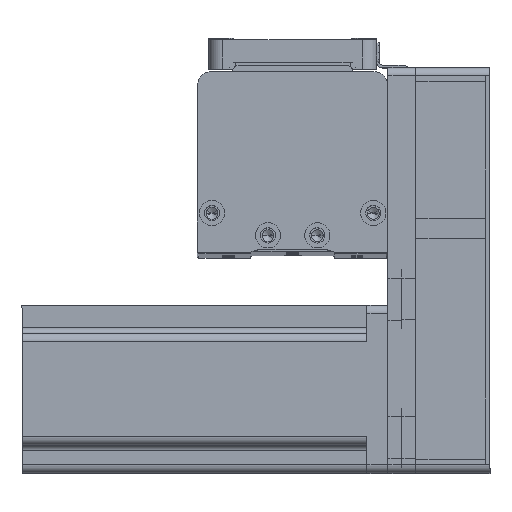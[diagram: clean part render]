
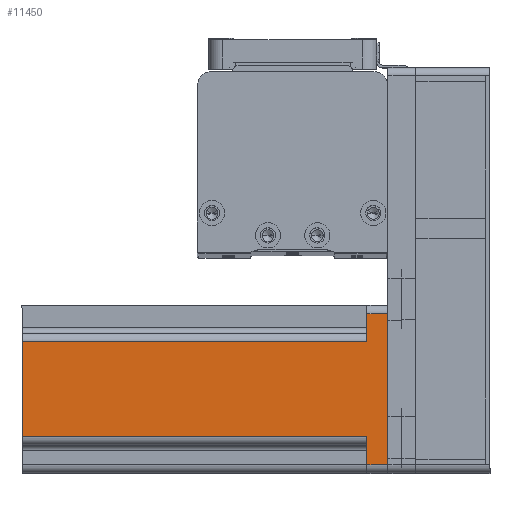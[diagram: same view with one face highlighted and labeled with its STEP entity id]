
A CAD part, top view. The second image highlights one B-rep face of the part: STEP entity #11450.
In plain terms, the highlighted planar face has unit normal (0, 0, 1) as drawn and (0, 1, 0) by its records, which use the part's own axes.
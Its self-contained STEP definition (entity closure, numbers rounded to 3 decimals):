
#803 = ORIENTED_EDGE ( 'NONE', *, *, #46091, .T. ) ;
#1332 = DIRECTION ( 'NONE',  ( 1., 0., 0. ) ) ;
#1352 = VECTOR ( 'NONE', #25365, 1000. ) ;
#1975 = VERTEX_POINT ( 'NONE', #32467 ) ;
#2615 = LINE ( 'NONE', #13319, #21146 ) ;
#2693 = VECTOR ( 'NONE', #14004, 1000. ) ;
#3989 = EDGE_CURVE ( 'NONE', #21360, #34917, #44382, .T. ) ;
#5058 = ORIENTED_EDGE ( 'NONE', *, *, #30467, .F. ) ;
#5072 = CARTESIAN_POINT ( 'NONE',  ( -20., 30., 7.5 ) ) ;
#5431 = CARTESIAN_POINT ( 'NONE',  ( -17., 30., 7.5 ) ) ;
#7027 = AXIS2_PLACEMENT_3D ( 'NONE', #11608, #37500, #15355 ) ;
#8292 = CARTESIAN_POINT ( 'NONE',  ( 20., 30., 7.5 ) ) ;
#8524 = DIRECTION ( 'NONE',  ( 0., 0., -1. ) ) ;
#8795 = LINE ( 'NONE', #26869, #17437 ) ;
#10304 = CARTESIAN_POINT ( 'NONE',  ( -17., 30., 130.7 ) ) ;
#11450 = ADVANCED_FACE ( 'NONE', ( #35503 ), #18948, .F. ) ;
#11608 = CARTESIAN_POINT ( 'NONE',  ( 30., 30., 130.7 ) ) ;
#12134 = ORIENTED_EDGE ( 'NONE', *, *, #17268, .T. ) ;
#12264 = EDGE_CURVE ( 'NONE', #20458, #21360, #25444, .T. ) ;
#12282 = LINE ( 'NONE', #8292, #20975 ) ;
#12361 = LINE ( 'NONE', #43838, #1352 ) ;
#13319 = CARTESIAN_POINT ( 'NONE',  ( 17., 30., 130.7 ) ) ;
#13517 = ORIENTED_EDGE ( 'NONE', *, *, #43900, .F. ) ;
#13671 = CARTESIAN_POINT ( 'NONE',  ( 27., 30., 7.5 ) ) ;
#14004 = DIRECTION ( 'NONE',  ( -1., 0., 0. ) ) ;
#14869 = VERTEX_POINT ( 'NONE', #22097 ) ;
#15355 = DIRECTION ( 'NONE',  ( 1., 0., 0. ) ) ;
#16633 = CARTESIAN_POINT ( 'NONE',  ( -17., 30., 130.7 ) ) ;
#17268 = EDGE_CURVE ( 'NONE', #46650, #30785, #8795, .T. ) ;
#17437 = VECTOR ( 'NONE', #8524, 1000. ) ;
#18889 = EDGE_LOOP ( 'NONE', ( #45219, #30955, #13517, #25186, #5058, #12134, #803, #21601 ) ) ;
#18948 = PLANE ( 'NONE',  #7027 ) ;
#19477 = CARTESIAN_POINT ( 'NONE',  ( 30., 30., 130.7 ) ) ;
#20458 = VERTEX_POINT ( 'NONE', #34628 ) ;
#20615 = DIRECTION ( 'NONE',  ( 0., 0., -1. ) ) ;
#20975 = VECTOR ( 'NONE', #41552, 1000. ) ;
#21146 = VECTOR ( 'NONE', #20615, 1000. ) ;
#21360 = VERTEX_POINT ( 'NONE', #5431 ) ;
#21601 = ORIENTED_EDGE ( 'NONE', *, *, #39791, .T. ) ;
#22097 = CARTESIAN_POINT ( 'NONE',  ( -27., 30., 0. ) ) ;
#22375 = LINE ( 'NONE', #36173, #2693 ) ;
#24823 = CARTESIAN_POINT ( 'NONE',  ( 27., 30., 0. ) ) ;
#25186 = ORIENTED_EDGE ( 'NONE', *, *, #38761, .T. ) ;
#25365 = DIRECTION ( 'NONE',  ( 0., 0., 1. ) ) ;
#25444 = LINE ( 'NONE', #5072, #34120 ) ;
#26869 = CARTESIAN_POINT ( 'NONE',  ( 27., 30., 130.7 ) ) ;
#29015 = VERTEX_POINT ( 'NONE', #43341 ) ;
#29408 = LINE ( 'NONE', #19477, #46798 ) ;
#30272 = DIRECTION ( 'NONE',  ( -1., 0., 0. ) ) ;
#30467 = EDGE_CURVE ( 'NONE', #46650, #29015, #12282, .T. ) ;
#30785 = VERTEX_POINT ( 'NONE', #24823 ) ;
#30955 = ORIENTED_EDGE ( 'NONE', *, *, #3989, .T. ) ;
#32467 = CARTESIAN_POINT ( 'NONE',  ( 17., 30., 130.7 ) ) ;
#34120 = VECTOR ( 'NONE', #1332, 1000. ) ;
#34530 = VECTOR ( 'NONE', #34681, 1000. ) ;
#34628 = CARTESIAN_POINT ( 'NONE',  ( -27., 30., 7.5 ) ) ;
#34681 = DIRECTION ( 'NONE',  ( 0., 0., 1. ) ) ;
#34917 = VERTEX_POINT ( 'NONE', #10304 ) ;
#35503 = FACE_OUTER_BOUND ( 'NONE', #18889, .T. ) ;
#36173 = CARTESIAN_POINT ( 'NONE',  ( 30., 30., 0. ) ) ;
#37500 = DIRECTION ( 'NONE',  ( 0., -1., 0. ) ) ;
#38761 = EDGE_CURVE ( 'NONE', #1975, #29015, #2615, .T. ) ;
#39791 = EDGE_CURVE ( 'NONE', #14869, #20458, #12361, .T. ) ;
#41552 = DIRECTION ( 'NONE',  ( -1., 0., 0. ) ) ;
#43341 = CARTESIAN_POINT ( 'NONE',  ( 17., 30., 7.5 ) ) ;
#43838 = CARTESIAN_POINT ( 'NONE',  ( -27., 30., 130.7 ) ) ;
#43900 = EDGE_CURVE ( 'NONE', #1975, #34917, #29408, .T. ) ;
#44382 = LINE ( 'NONE', #16633, #34530 ) ;
#45219 = ORIENTED_EDGE ( 'NONE', *, *, #12264, .T. ) ;
#46091 = EDGE_CURVE ( 'NONE', #30785, #14869, #22375, .T. ) ;
#46650 = VERTEX_POINT ( 'NONE', #13671 ) ;
#46798 = VECTOR ( 'NONE', #30272, 1000. ) ;
